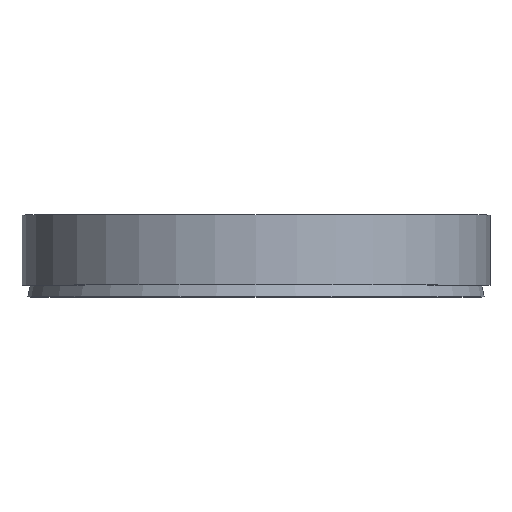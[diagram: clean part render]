
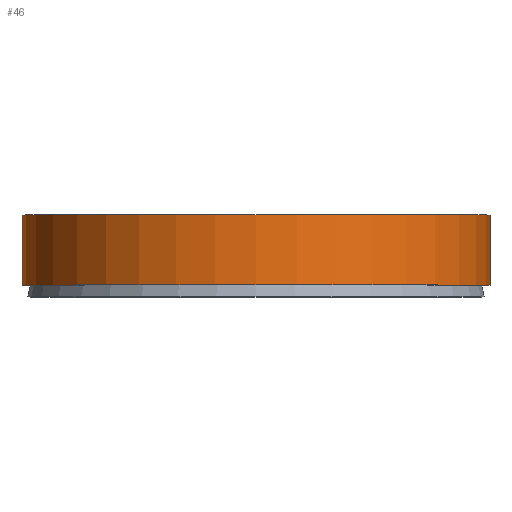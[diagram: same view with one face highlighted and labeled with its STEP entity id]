
A CAD part, top view. The second image highlights one B-rep face of the part: STEP entity #46.
In plain terms, the highlighted cylindrical face has radius 20 mm (diameter 40 mm), a full revolution.
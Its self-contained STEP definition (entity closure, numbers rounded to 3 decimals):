
#46 = ADVANCED_FACE( '', ( #93, #94 ), #95, .T. );
#93 = FACE_OUTER_BOUND( '', #132, .T. );
#94 = FACE_OUTER_BOUND( '', #133, .T. );
#95 = CYLINDRICAL_SURFACE( '', #134, 20. );
#132 = EDGE_LOOP( '', ( #179 ) );
#133 = EDGE_LOOP( '', ( #180 ) );
#134 = AXIS2_PLACEMENT_3D( '', #181, #182, #183 );
#179 = ORIENTED_EDGE( '', *, *, #189, .F. );
#180 = ORIENTED_EDGE( '', *, *, #198, .T. );
#181 = CARTESIAN_POINT( '', ( 0., -60., 0. ) );
#182 = DIRECTION( '', ( 0., 1., 0. ) );
#183 = DIRECTION( '', ( 0., 0., -1. ) );
#189 = EDGE_CURVE( '', #208, #208, #209, .T. );
#198 = EDGE_CURVE( '', #221, #221, #222, .T. );
#208 = VERTEX_POINT( '', #232 );
#209 = CIRCLE( '', #233, 20. );
#221 = VERTEX_POINT( '', #245 );
#222 = CIRCLE( '', #246, 20. );
#232 = CARTESIAN_POINT( '', ( 0., 1., -20. ) );
#233 = AXIS2_PLACEMENT_3D( '', #257, #258, #259 );
#245 = CARTESIAN_POINT( '', ( 0., 7., -20. ) );
#246 = AXIS2_PLACEMENT_3D( '', #269, #270, #271 );
#257 = CARTESIAN_POINT( '', ( 0., 1., 0. ) );
#258 = DIRECTION( '', ( 0., -1., 0. ) );
#259 = DIRECTION( '', ( 0., 0., -1. ) );
#269 = CARTESIAN_POINT( '', ( 0., 7., 0. ) );
#270 = DIRECTION( '', ( 0., -1., 0. ) );
#271 = DIRECTION( '', ( 0., 0., -1. ) );
